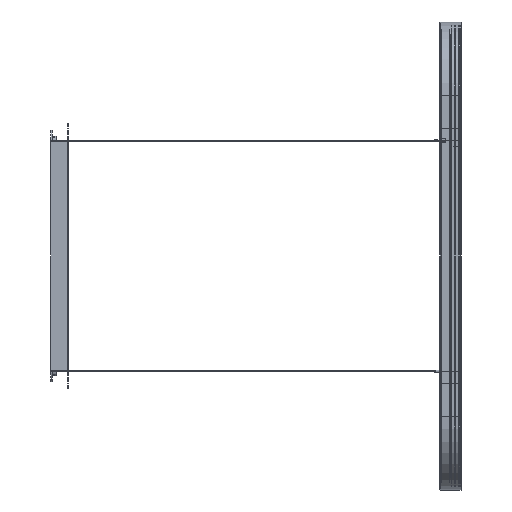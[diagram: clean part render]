
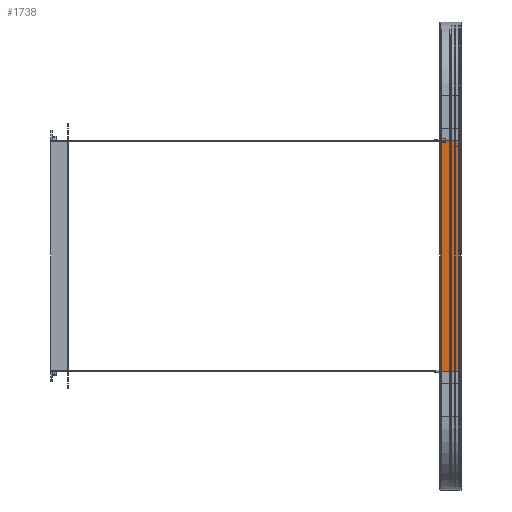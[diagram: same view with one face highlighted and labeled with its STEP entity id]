
A CAD part, left-side view. The second image highlights one B-rep face of the part: STEP entity #1738.
In plain terms, the highlighted planar face has unit normal (-1, 0, 0).
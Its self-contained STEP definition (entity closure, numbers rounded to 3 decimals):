
#925=PLANE('',#16539);
#1738=ADVANCED_FACE('',(#2971),#925,.T.);
#2971=FACE_OUTER_BOUND('',#3872,.T.);
#3872=EDGE_LOOP('',(#8470,#8471,#8472,#8473));
#8470=ORIENTED_EDGE('',*,*,#12407,.T.);
#8471=ORIENTED_EDGE('',*,*,#12406,.T.);
#8472=ORIENTED_EDGE('',*,*,#12408,.T.);
#8473=ORIENTED_EDGE('',*,*,#12240,.F.);
#10238=VERTEX_POINT('',#29410);
#10239=VERTEX_POINT('',#29412);
#10363=VERTEX_POINT('',#29797);
#10364=VERTEX_POINT('',#29799);
#12240=EDGE_CURVE('',#10238,#10239,#13574,.T.);
#12406=EDGE_CURVE('',#10363,#10364,#13668,.T.);
#12407=EDGE_CURVE('',#10238,#10363,#13669,.T.);
#12408=EDGE_CURVE('',#10364,#10239,#13670,.T.);
#13574=LINE('',#29411,#14729);
#13668=LINE('',#29800,#14823);
#13669=LINE('',#29802,#14824);
#13670=LINE('',#29803,#14825);
#14729=VECTOR('',#20429,1.);
#14823=VECTOR('',#20717,1.);
#14824=VECTOR('',#20720,1.);
#14825=VECTOR('',#20721,1.);
#16539=AXIS2_PLACEMENT_3D('',#29804,#20722,#20723);
#20429=DIRECTION('',(0.,0.,1.));
#20717=DIRECTION('',(0.,0.,1.));
#20720=DIRECTION('',(0.,-1.,0.));
#20721=DIRECTION('',(0.,1.,0.));
#20722=DIRECTION('',(-1.,0.,0.));
#20723=DIRECTION('',(0.,-1.,0.));
#29410=CARTESIAN_POINT('',(-902.5,30.5,-165.));
#29411=CARTESIAN_POINT('',(-902.5,30.5,0.));
#29412=CARTESIAN_POINT('',(-902.5,30.5,165.));
#29797=CARTESIAN_POINT('',(-902.5,0.5,-165.));
#29799=CARTESIAN_POINT('',(-902.5,0.5,165.));
#29800=CARTESIAN_POINT('',(-902.5,0.5,0.));
#29802=CARTESIAN_POINT('',(-902.5,30.75,-165.));
#29803=CARTESIAN_POINT('',(-902.5,30.75,165.));
#29804=CARTESIAN_POINT('',(-902.5,30.5,0.));
